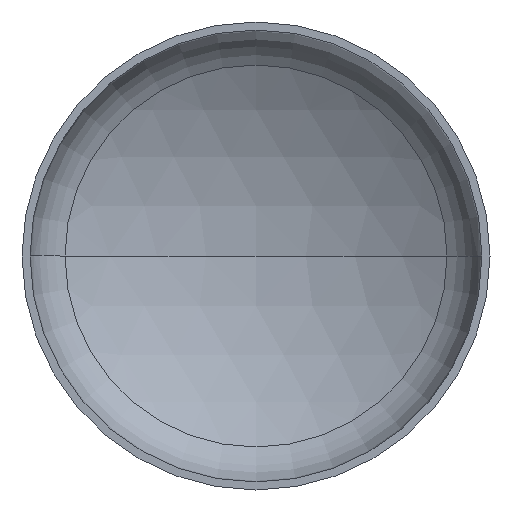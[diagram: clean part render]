
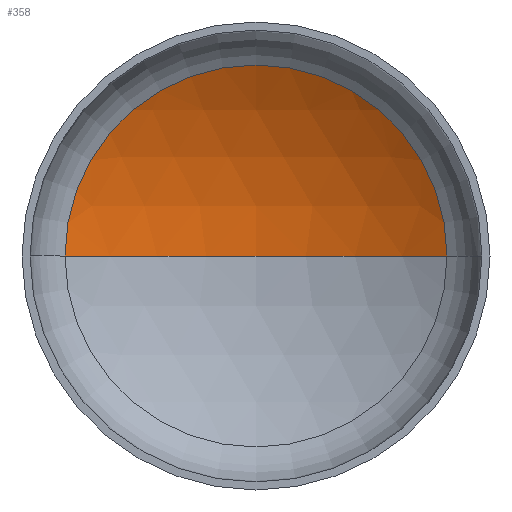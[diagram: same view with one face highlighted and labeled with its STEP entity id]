
A CAD part, front view. The second image highlights one B-rep face of the part: STEP entity #358.
In plain terms, the highlighted spherical face has radius 325 mm.
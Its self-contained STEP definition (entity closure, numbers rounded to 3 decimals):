
#4 = EDGE_LOOP ( 'NONE', ( #122, #84, #34 ) ) ;
#7 = AXIS2_PLACEMENT_3D ( 'NONE', #162, #369, #278 ) ;
#26 = AXIS2_PLACEMENT_3D ( 'NONE', #293, #139, #243 ) ;
#34 = ORIENTED_EDGE ( 'NONE', *, *, #348, .T. ) ;
#44 = VERTEX_POINT ( 'NONE', #241 ) ;
#83 = DIRECTION ( 'NONE',  ( -1., 0., 0. ) ) ;
#84 = ORIENTED_EDGE ( 'NONE', *, *, #381, .T. ) ;
#87 = FACE_OUTER_BOUND ( 'NONE', #4, .T. ) ;
#116 = VERTEX_POINT ( 'NONE', #336 ) ;
#122 = ORIENTED_EDGE ( 'NONE', *, *, #372, .F. ) ;
#139 = DIRECTION ( 'NONE',  ( 0., -1., 0. ) ) ;
#152 = DIRECTION ( 'NONE',  ( 1., 0., 0. ) ) ;
#162 = CARTESIAN_POINT ( 'NONE',  ( 0., -201.184, 0. ) ) ;
#163 = VERTEX_POINT ( 'NONE', #221 ) ;
#175 = CARTESIAN_POINT ( 'NONE',  ( 0., -201.184, 0. ) ) ;
#192 = CIRCLE ( 'NONE', #26, 165.837 ) ;
#221 = CARTESIAN_POINT ( 'NONE',  ( -165.837, 78.321, 0. ) ) ;
#222 = AXIS2_PLACEMENT_3D ( 'NONE', #404, #259, #152 ) ;
#241 = CARTESIAN_POINT ( 'NONE',  ( 165.837, 78.321, 0. ) ) ;
#243 = DIRECTION ( 'NONE',  ( 1., 0., 0. ) ) ;
#255 = CIRCLE ( 'NONE', #267, 325. ) ;
#259 = DIRECTION ( 'NONE',  ( 0., 0., 1. ) ) ;
#267 = AXIS2_PLACEMENT_3D ( 'NONE', #175, #276, #83 ) ;
#276 = DIRECTION ( 'NONE',  ( 0., 0., -1. ) ) ;
#278 = DIRECTION ( 'NONE',  ( -1., 0., 0. ) ) ;
#293 = CARTESIAN_POINT ( 'NONE',  ( 0., 78.321, 0. ) ) ;
#326 = SPHERICAL_SURFACE ( 'NONE', #7, 325. ) ;
#336 = CARTESIAN_POINT ( 'NONE',  ( 0., 123.816, 0. ) ) ;
#348 = EDGE_CURVE ( 'NONE', #44, #163, #192, .T. ) ;
#358 = ADVANCED_FACE ( 'NONE', ( #87 ), #326, .F. ) ;
#369 = DIRECTION ( 'NONE',  ( 0., 0., -1. ) ) ;
#372 = EDGE_CURVE ( 'NONE', #116, #163, #378, .T. ) ;
#378 = CIRCLE ( 'NONE', #222, 325. ) ;
#381 = EDGE_CURVE ( 'NONE', #116, #44, #255, .T. ) ;
#404 = CARTESIAN_POINT ( 'NONE',  ( 0., -201.184, 0. ) ) ;
